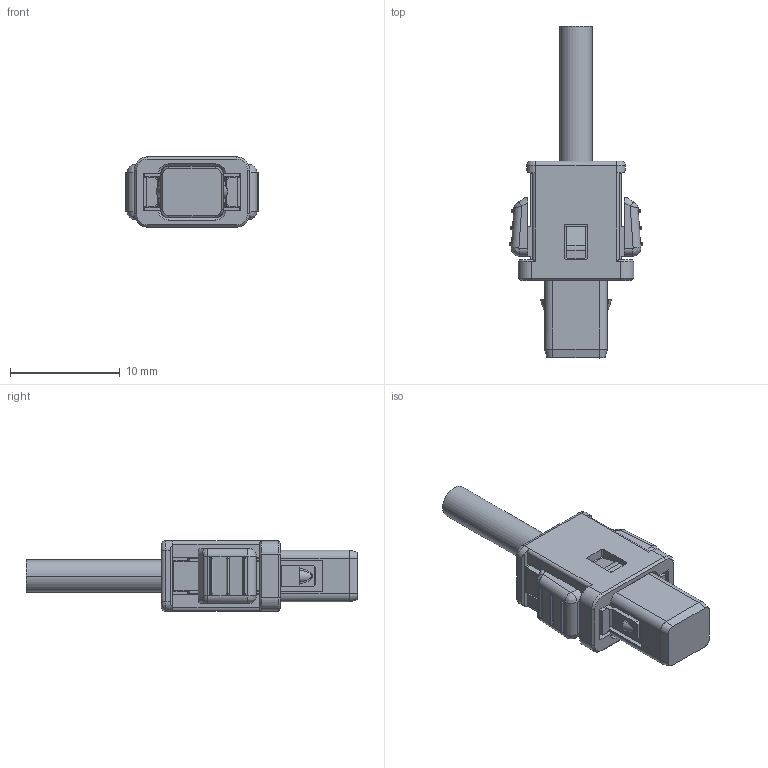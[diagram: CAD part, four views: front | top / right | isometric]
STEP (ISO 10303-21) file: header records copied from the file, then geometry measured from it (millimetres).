
FILE_DESCRIPTION((''),'2;1');
FILE_NAME('CRC9001-4402F_SW0001','2013-11-07T',('en-yo'),(''),'PRO/ENGINEER BY PARAMETRIC TECHNOLOGY CORPORATION, 2011220','PRO/ENGINEER BY PARAMETRIC TECHNOLOGY CORPORATION, 2011220','');
FILE_SCHEMA(('AUTOMOTIVE_DESIGN_CC2 { 1 2 10303 214 -1 1 5 2 }'));
Length unit declared in the file: millimetre
Products named in the file (1): CRC9001-4402F_SW0001
Bounding box: 12.15 x 30.2 x 6.4 mm (x, y, z)
Volume: 865.6 mm3; surface area: 1352.6 mm2
Topology: 1 solids, 1 shells, 474 faces, 1245 edges, 780 vertices
Faces by surface type: plane 274, cylinder 128, cone 34, sphere 24, bspline 10, torus 4
Entity records: 18447 total; most frequent: CARTESIAN_POINT 3303, ORIENTED_EDGE 2490, DIRECTION 2361, EDGE_CURVE 1245, VECTOR 901, LINE 901, VERTEX_POINT 780, AXIS2_PLACEMENT_3D 730
